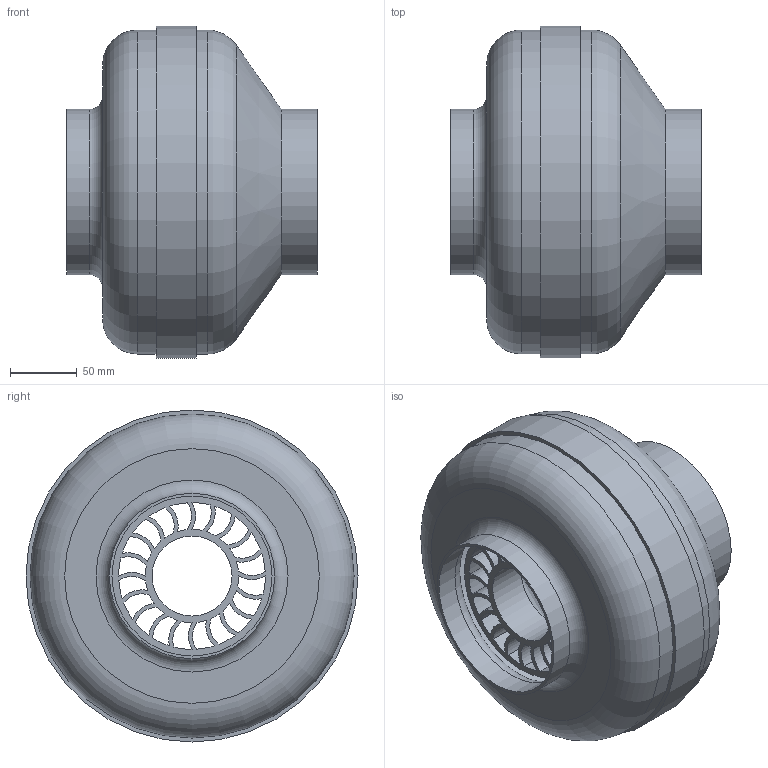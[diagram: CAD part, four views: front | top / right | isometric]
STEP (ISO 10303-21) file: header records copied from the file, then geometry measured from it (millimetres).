
FILE_DESCRIPTION(/* description */ (''),/* implementation_level */ '2;1');
FILE_NAME(/* name */ 'Z:\Output\RR 125 C-05655-020.stp',/* time_stamp */ '2017-05-05T16:58:41+02:00',/* author */ ('Engineering1'),/* organization */ (''),/* preprocessor_version */ 'ST-DEVELOPER v16.5',/* originating_system */ 'Autodesk Inventor 2017',/* authorisation */ '');
FILE_SCHEMA (('AUTOMOTIVE_DESIGN { 1 0 10303 214 3 1 1 }'));
Length unit declared in the file: millimetre
Products named in the file (1): RR-1
Bounding box: 188 x 249 x 249 mm (x, y, z)
Volume: 499632.3 mm3; surface area: 377130.5 mm2
Topology: 2 solids, 2 shells, 106 faces, 286 edges, 188 vertices
Faces by surface type: cylinder 90, plane 8, torus 6, cone 2
Full cylindrical faces by diameter (mm): 60 x1, 120 x3, 124 x2, 239 x1, 243 x2, 249 x1
Entity records: 3441 total; most frequent: DIRECTION 666, CARTESIAN_POINT 559, ORIENTED_EDGE 532, AXIS2_PLACEMENT_3D 293, EDGE_CURVE 266, CIRCLE 186, VERTEX_POINT 186, EDGE_LOOP 172
